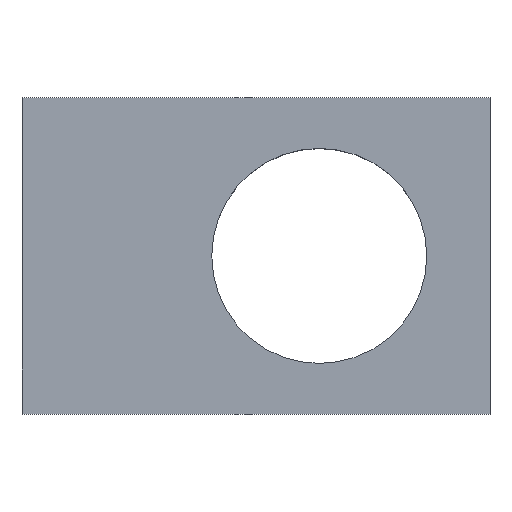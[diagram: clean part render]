
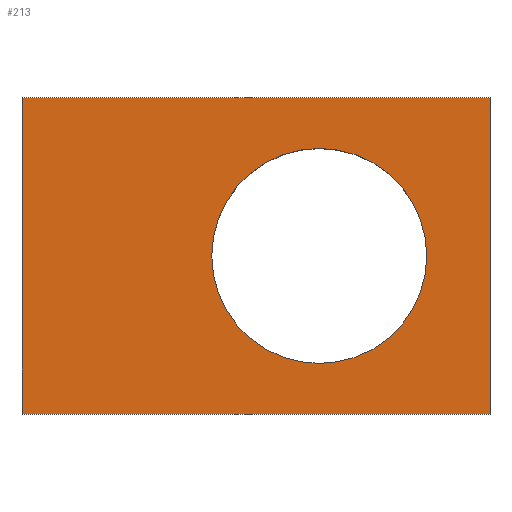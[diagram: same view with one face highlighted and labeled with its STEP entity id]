
A CAD part, top view. The second image highlights one B-rep face of the part: STEP entity #213.
In plain terms, the highlighted planar face has unit normal (0, 0, 1).
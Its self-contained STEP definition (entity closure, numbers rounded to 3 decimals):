
#24 = VERTEX_POINT('',#25);
#25 = CARTESIAN_POINT('',(5.35,-1.25,23.495));
#32 = PLANE('',#33);
#33 = AXIS2_PLACEMENT_3D('',#34,#35,#36);
#34 = CARTESIAN_POINT('',(5.35,-1.25,22.795));
#35 = DIRECTION('',(1.,0.,0.));
#36 = DIRECTION('',(0.,0.,1.));
#44 = PLANE('',#45);
#45 = AXIS2_PLACEMENT_3D('',#46,#47,#48);
#46 = CARTESIAN_POINT('',(5.35,-1.25,22.795));
#47 = DIRECTION('',(0.,1.,0.));
#48 = DIRECTION('',(0.,-0.,1.));
#85 = VERTEX_POINT('',#86);
#86 = CARTESIAN_POINT('',(5.35,1.25,23.495));
#100 = PLANE('',#101);
#101 = AXIS2_PLACEMENT_3D('',#102,#103,#104);
#102 = CARTESIAN_POINT('',(5.35,1.25,22.795));
#103 = DIRECTION('',(0.,1.,0.));
#104 = DIRECTION('',(0.,-0.,1.));
#112 = EDGE_CURVE('',#24,#85,#113,.T.);
#113 = SURFACE_CURVE('',#114,(#118,#125),.PCURVE_S1.);
#114 = LINE('',#115,#116);
#115 = CARTESIAN_POINT('',(5.35,-1.25,23.495));
#116 = VECTOR('',#117,1.);
#117 = DIRECTION('',(0.,1.,0.));
#118 = PCURVE('',#32,#119);
#119 = DEFINITIONAL_REPRESENTATION('',(#120),#124);
#120 = LINE('',#121,#122);
#121 = CARTESIAN_POINT('',(0.7,0.));
#122 = VECTOR('',#123,1.);
#123 = DIRECTION('',(0.,-1.));
#124 = ( GEOMETRIC_REPRESENTATION_CONTEXT(2) 
PARAMETRIC_REPRESENTATION_CONTEXT() REPRESENTATION_CONTEXT('2D SPACE',''
  ) );
#125 = PCURVE('',#126,#131);
#126 = PLANE('',#127);
#127 = AXIS2_PLACEMENT_3D('',#128,#129,#130);
#128 = CARTESIAN_POINT('',(5.35,-1.25,23.495));
#129 = DIRECTION('',(0.,0.,1.));
#130 = DIRECTION('',(1.,0.,-0.));
#131 = DEFINITIONAL_REPRESENTATION('',(#132),#136);
#132 = LINE('',#133,#134);
#133 = CARTESIAN_POINT('',(0.,0.));
#134 = VECTOR('',#135,1.);
#135 = DIRECTION('',(0.,1.));
#136 = ( GEOMETRIC_REPRESENTATION_CONTEXT(2) 
PARAMETRIC_REPRESENTATION_CONTEXT() REPRESENTATION_CONTEXT('2D SPACE',''
  ) );
#165 = EDGE_CURVE('',#24,#166,#168,.T.);
#166 = VERTEX_POINT('',#167);
#167 = CARTESIAN_POINT('',(9.05,-1.25,23.495));
#168 = SURFACE_CURVE('',#169,(#173,#180),.PCURVE_S1.);
#169 = LINE('',#170,#171);
#170 = CARTESIAN_POINT('',(5.35,-1.25,23.495));
#171 = VECTOR('',#172,1.);
#172 = DIRECTION('',(1.,0.,0.));
#173 = PCURVE('',#44,#174);
#174 = DEFINITIONAL_REPRESENTATION('',(#175),#179);
#175 = LINE('',#176,#177);
#176 = CARTESIAN_POINT('',(0.7,0.));
#177 = VECTOR('',#178,1.);
#178 = DIRECTION('',(0.,1.));
#179 = ( GEOMETRIC_REPRESENTATION_CONTEXT(2) 
PARAMETRIC_REPRESENTATION_CONTEXT() REPRESENTATION_CONTEXT('2D SPACE',''
  ) );
#180 = PCURVE('',#126,#181);
#181 = DEFINITIONAL_REPRESENTATION('',(#182),#186);
#182 = LINE('',#183,#184);
#183 = CARTESIAN_POINT('',(0.,0.));
#184 = VECTOR('',#185,1.);
#185 = DIRECTION('',(1.,0.));
#186 = ( GEOMETRIC_REPRESENTATION_CONTEXT(2) 
PARAMETRIC_REPRESENTATION_CONTEXT() REPRESENTATION_CONTEXT('2D SPACE',''
  ) );
#202 = PLANE('',#203);
#203 = AXIS2_PLACEMENT_3D('',#204,#205,#206);
#204 = CARTESIAN_POINT('',(9.05,-1.25,22.795));
#205 = DIRECTION('',(1.,0.,0.));
#206 = DIRECTION('',(0.,0.,1.));
#213 = ADVANCED_FACE('',(#214,#262),#126,.T.);
#214 = FACE_BOUND('',#215,.T.);
#215 = EDGE_LOOP('',(#216,#217,#218,#241));
#216 = ORIENTED_EDGE('',*,*,#112,.F.);
#217 = ORIENTED_EDGE('',*,*,#165,.T.);
#218 = ORIENTED_EDGE('',*,*,#219,.T.);
#219 = EDGE_CURVE('',#166,#220,#222,.T.);
#220 = VERTEX_POINT('',#221);
#221 = CARTESIAN_POINT('',(9.05,1.25,23.495));
#222 = SURFACE_CURVE('',#223,(#227,#234),.PCURVE_S1.);
#223 = LINE('',#224,#225);
#224 = CARTESIAN_POINT('',(9.05,-1.25,23.495));
#225 = VECTOR('',#226,1.);
#226 = DIRECTION('',(0.,1.,0.));
#227 = PCURVE('',#126,#228);
#228 = DEFINITIONAL_REPRESENTATION('',(#229),#233);
#229 = LINE('',#230,#231);
#230 = CARTESIAN_POINT('',(3.7,0.));
#231 = VECTOR('',#232,1.);
#232 = DIRECTION('',(0.,1.));
#233 = ( GEOMETRIC_REPRESENTATION_CONTEXT(2) 
PARAMETRIC_REPRESENTATION_CONTEXT() REPRESENTATION_CONTEXT('2D SPACE',''
  ) );
#234 = PCURVE('',#202,#235);
#235 = DEFINITIONAL_REPRESENTATION('',(#236),#240);
#236 = LINE('',#237,#238);
#237 = CARTESIAN_POINT('',(0.7,0.));
#238 = VECTOR('',#239,1.);
#239 = DIRECTION('',(0.,-1.));
#240 = ( GEOMETRIC_REPRESENTATION_CONTEXT(2) 
PARAMETRIC_REPRESENTATION_CONTEXT() REPRESENTATION_CONTEXT('2D SPACE',''
  ) );
#241 = ORIENTED_EDGE('',*,*,#242,.F.);
#242 = EDGE_CURVE('',#85,#220,#243,.T.);
#243 = SURFACE_CURVE('',#244,(#248,#255),.PCURVE_S1.);
#244 = LINE('',#245,#246);
#245 = CARTESIAN_POINT('',(5.35,1.25,23.495));
#246 = VECTOR('',#247,1.);
#247 = DIRECTION('',(1.,0.,0.));
#248 = PCURVE('',#126,#249);
#249 = DEFINITIONAL_REPRESENTATION('',(#250),#254);
#250 = LINE('',#251,#252);
#251 = CARTESIAN_POINT('',(0.,2.5));
#252 = VECTOR('',#253,1.);
#253 = DIRECTION('',(1.,0.));
#254 = ( GEOMETRIC_REPRESENTATION_CONTEXT(2) 
PARAMETRIC_REPRESENTATION_CONTEXT() REPRESENTATION_CONTEXT('2D SPACE',''
  ) );
#255 = PCURVE('',#100,#256);
#256 = DEFINITIONAL_REPRESENTATION('',(#257),#261);
#257 = LINE('',#258,#259);
#258 = CARTESIAN_POINT('',(0.7,0.));
#259 = VECTOR('',#260,1.);
#260 = DIRECTION('',(0.,1.));
#261 = ( GEOMETRIC_REPRESENTATION_CONTEXT(2) 
PARAMETRIC_REPRESENTATION_CONTEXT() REPRESENTATION_CONTEXT('2D SPACE',''
  ) );
#262 = FACE_BOUND('',#263,.T.);
#263 = EDGE_LOOP('',(#264));
#264 = ORIENTED_EDGE('',*,*,#265,.F.);
#265 = EDGE_CURVE('',#266,#266,#268,.T.);
#266 = VERTEX_POINT('',#267);
#267 = CARTESIAN_POINT('',(8.55,0.,23.495));
#268 = SURFACE_CURVE('',#269,(#274,#281),.PCURVE_S1.);
#269 = CIRCLE('',#270,0.85);
#270 = AXIS2_PLACEMENT_3D('',#271,#272,#273);
#271 = CARTESIAN_POINT('',(7.7,0.,23.495));
#272 = DIRECTION('',(0.,0.,1.));
#273 = DIRECTION('',(1.,0.,-0.));
#274 = PCURVE('',#126,#275);
#275 = DEFINITIONAL_REPRESENTATION('',(#276),#280);
#276 = CIRCLE('',#277,0.85);
#277 = AXIS2_PLACEMENT_2D('',#278,#279);
#278 = CARTESIAN_POINT('',(2.35,1.25));
#279 = DIRECTION('',(1.,0.));
#280 = ( GEOMETRIC_REPRESENTATION_CONTEXT(2) 
PARAMETRIC_REPRESENTATION_CONTEXT() REPRESENTATION_CONTEXT('2D SPACE',''
  ) );
#281 = PCURVE('',#282,#287);
#282 = CYLINDRICAL_SURFACE('',#283,0.85);
#283 = AXIS2_PLACEMENT_3D('',#284,#285,#286);
#284 = CARTESIAN_POINT('',(7.7,0.,22.785));
#285 = DIRECTION('',(0.,0.,1.));
#286 = DIRECTION('',(1.,0.,-0.));
#287 = DEFINITIONAL_REPRESENTATION('',(#288),#292);
#288 = LINE('',#289,#290);
#289 = CARTESIAN_POINT('',(0.,0.71));
#290 = VECTOR('',#291,1.);
#291 = DIRECTION('',(1.,0.));
#292 = ( GEOMETRIC_REPRESENTATION_CONTEXT(2) 
PARAMETRIC_REPRESENTATION_CONTEXT() REPRESENTATION_CONTEXT('2D SPACE',''
  ) );
